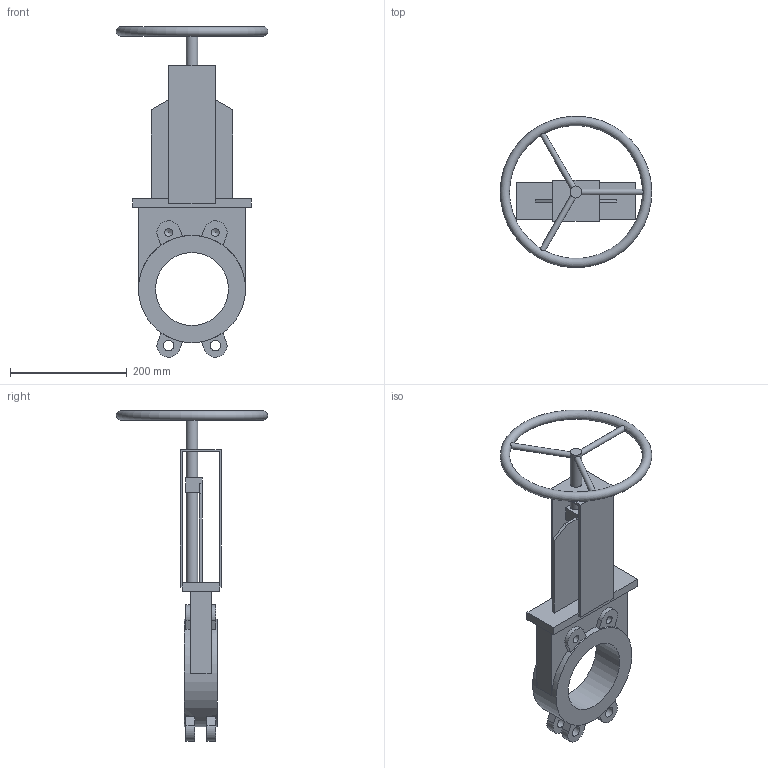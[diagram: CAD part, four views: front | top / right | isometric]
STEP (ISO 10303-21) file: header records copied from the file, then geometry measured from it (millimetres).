
FILE_DESCRIPTION(('STEP AP203'), '1');
FILE_NAME('Çàäâèæêà øèáåðíàÿ ìåæôëàíöåâàÿ K51GV DN125', '', ('UNSPECIFIED'), ('UNSPECIFIED'), 'ASCON STEP Converter 1.6', 'ASCON Math Kernel', '');
FILE_SCHEMA(('CONFIG_CONTROL_DESIGN'));
Length unit declared in the file: millimetre
Bounding box: 259.97 x 259.45 x 566.99 mm (x, y, z)
Volume: 2069624.5 mm3; surface area: 355578.3 mm2
Topology: 1 solids, 1 shells, 93 faces, 251 edges, 164 vertices
Faces by surface type: plane 64, cylinder 24, cone 4, torus 1
Full cylindrical faces by diameter (mm): 10 x3, 13.835 x4, 18 x4, 20 x3, 125 x1, 184 x1
Entity records: 4674 total; most frequent: CARTESIAN_POINT 1593, DIRECTION 466, ORIENTED_EDGE 446, EDGE_CURVE 223, VERTEX_POINT 159, AXIS2_PLACEMENT_3D 156, LINE 154, VECTOR 154
